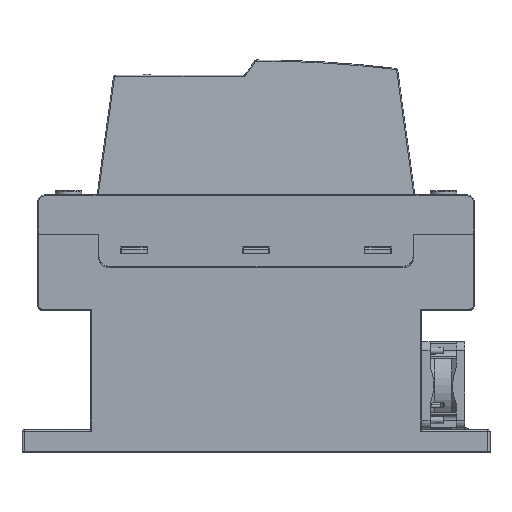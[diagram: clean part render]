
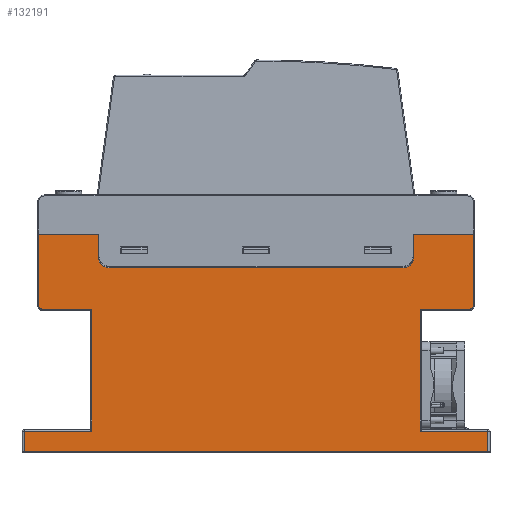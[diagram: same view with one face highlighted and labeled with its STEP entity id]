
A CAD part, top view. The second image highlights one B-rep face of the part: STEP entity #132191.
In plain terms, the highlighted planar face has unit normal (0, 0, 1).
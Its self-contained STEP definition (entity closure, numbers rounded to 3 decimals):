
#5770=PLANE('',#140024);
#9480=ELLIPSE('',#140025,5.154,5.);
#9481=ELLIPSE('',#140026,5.154,5.);
#11938=FACE_OUTER_BOUND('',#18976,.T.);
#18976=EDGE_LOOP('',(#98917,#98918,#98919,#98920,#98921,#98922,#98923,#98924,
#98925,#98926,#98927,#98928,#98929,#98930,#98931,#98932,#98933,#98934,#98935,
#98936));
#26194=CIRCLE('',#140027,1.5);
#26195=CIRCLE('',#140028,1.5);
#33085=LINE('',#185330,#47437);
#33117=LINE('',#185426,#47469);
#33576=LINE('',#186367,#47928);
#33577=LINE('',#186371,#47929);
#33578=LINE('',#186374,#47930);
#33579=LINE('',#186376,#47931);
#33580=LINE('',#186380,#47932);
#33581=LINE('',#186382,#47933);
#33582=LINE('',#186384,#47934);
#33583=LINE('',#186386,#47935);
#33584=LINE('',#186388,#47936);
#33585=LINE('',#186390,#47937);
#33586=LINE('',#186392,#47938);
#33587=LINE('',#186394,#47939);
#33588=LINE('',#186396,#47940);
#33589=LINE('',#186399,#47941);
#47437=VECTOR('',#152930,1000.);
#47469=VECTOR('',#152994,1000.);
#47928=VECTOR('',#153613,1000.);
#47929=VECTOR('',#153616,1000.);
#47930=VECTOR('',#153619,1000.);
#47931=VECTOR('',#153620,1000.);
#47932=VECTOR('',#153623,1000.);
#47933=VECTOR('',#153624,1000.);
#47934=VECTOR('',#153625,1000.);
#47935=VECTOR('',#153626,1000.);
#47936=VECTOR('',#153627,1000.);
#47937=VECTOR('',#153628,1000.);
#47938=VECTOR('',#153629,1000.);
#47939=VECTOR('',#153630,1000.);
#47940=VECTOR('',#153631,1000.);
#47941=VECTOR('',#153634,1000.);
#61491=VERTEX_POINT('',#185327);
#61492=VERTEX_POINT('',#185329);
#61539=VERTEX_POINT('',#185423);
#61540=VERTEX_POINT('',#185425);
#61942=VERTEX_POINT('',#186366);
#61943=VERTEX_POINT('',#186368);
#61944=VERTEX_POINT('',#186370);
#61945=VERTEX_POINT('',#186372);
#61946=VERTEX_POINT('',#186375);
#61947=VERTEX_POINT('',#186377);
#61948=VERTEX_POINT('',#186379);
#61949=VERTEX_POINT('',#186381);
#61950=VERTEX_POINT('',#186383);
#61951=VERTEX_POINT('',#186385);
#61952=VERTEX_POINT('',#186387);
#61953=VERTEX_POINT('',#186389);
#61954=VERTEX_POINT('',#186391);
#61955=VERTEX_POINT('',#186393);
#61956=VERTEX_POINT('',#186395);
#61957=VERTEX_POINT('',#186397);
#75514=EDGE_CURVE('',#61491,#61492,#33085,.T.);
#75562=EDGE_CURVE('',#61539,#61540,#33117,.T.);
#76021=EDGE_CURVE('',#61491,#61942,#33576,.T.);
#76022=EDGE_CURVE('',#61942,#61943,#9480,.T.);
#76023=EDGE_CURVE('',#61943,#61944,#33577,.T.);
#76024=EDGE_CURVE('',#61944,#61945,#9481,.T.);
#76025=EDGE_CURVE('',#61945,#61540,#33578,.T.);
#76026=EDGE_CURVE('',#61539,#61946,#33579,.T.);
#76027=EDGE_CURVE('',#61946,#61947,#26194,.T.);
#76028=EDGE_CURVE('',#61947,#61948,#33580,.T.);
#76029=EDGE_CURVE('',#61948,#61949,#33581,.T.);
#76030=EDGE_CURVE('',#61949,#61950,#33582,.T.);
#76031=EDGE_CURVE('',#61950,#61951,#33583,.T.);
#76032=EDGE_CURVE('',#61952,#61951,#33584,.T.);
#76033=EDGE_CURVE('',#61952,#61953,#33585,.T.);
#76034=EDGE_CURVE('',#61953,#61954,#33586,.T.);
#76035=EDGE_CURVE('',#61954,#61955,#33587,.T.);
#76036=EDGE_CURVE('',#61955,#61956,#33588,.T.);
#76037=EDGE_CURVE('',#61956,#61957,#26195,.T.);
#76038=EDGE_CURVE('',#61957,#61492,#33589,.T.);
#98917=ORIENTED_EDGE('',*,*,#76021,.T.);
#98918=ORIENTED_EDGE('',*,*,#76022,.T.);
#98919=ORIENTED_EDGE('',*,*,#76023,.T.);
#98920=ORIENTED_EDGE('',*,*,#76024,.T.);
#98921=ORIENTED_EDGE('',*,*,#76025,.T.);
#98922=ORIENTED_EDGE('',*,*,#75562,.F.);
#98923=ORIENTED_EDGE('',*,*,#76026,.T.);
#98924=ORIENTED_EDGE('',*,*,#76027,.T.);
#98925=ORIENTED_EDGE('',*,*,#76028,.T.);
#98926=ORIENTED_EDGE('',*,*,#76029,.T.);
#98927=ORIENTED_EDGE('',*,*,#76030,.T.);
#98928=ORIENTED_EDGE('',*,*,#76031,.T.);
#98929=ORIENTED_EDGE('',*,*,#76032,.F.);
#98930=ORIENTED_EDGE('',*,*,#76033,.T.);
#98931=ORIENTED_EDGE('',*,*,#76034,.T.);
#98932=ORIENTED_EDGE('',*,*,#76035,.T.);
#98933=ORIENTED_EDGE('',*,*,#76036,.T.);
#98934=ORIENTED_EDGE('',*,*,#76037,.T.);
#98935=ORIENTED_EDGE('',*,*,#76038,.T.);
#98936=ORIENTED_EDGE('',*,*,#75514,.F.);
#132191=ADVANCED_FACE('',(#11938),#5770,.T.);
#140024=AXIS2_PLACEMENT_3D('',#186365,#153611,#153612);
#140025=AXIS2_PLACEMENT_3D('',#186369,#153614,#153615);
#140026=AXIS2_PLACEMENT_3D('',#186373,#153617,#153618);
#140027=AXIS2_PLACEMENT_3D('',#186378,#153621,#153622);
#140028=AXIS2_PLACEMENT_3D('',#186398,#153632,#153633);
#152930=DIRECTION('',(1.,0.,0.));
#152994=DIRECTION('',(1.,0.,0.));
#153611=DIRECTION('center_axis',(0.,0.,
1.));
#153612=DIRECTION('ref_axis',(1.,0.,0.));
#153613=DIRECTION('',(0.,-1.,0.));
#153614=DIRECTION('center_axis',(0.,0.,
-1.));
#153615=DIRECTION('ref_axis',(0.,1.,0.));
#153616=DIRECTION('',(-1.,0.,0.));
#153617=DIRECTION('center_axis',(0.,0.,
-1.));
#153618=DIRECTION('ref_axis',(0.,1.,0.));
#153619=DIRECTION('',(0.,1.,0.));
#153620=DIRECTION('',(0.,-1.,0.));
#153621=DIRECTION('center_axis',(0.,0.,
1.));
#153622=DIRECTION('ref_axis',(1.,0.,0.));
#153623=DIRECTION('',(1.,0.,0.));
#153624=DIRECTION('',(0.,-1.,0.));
#153625=DIRECTION('',(-1.,0.,0.));
#153626=DIRECTION('',(0.,-1.,0.));
#153627=DIRECTION('',(-1.,0.,0.));
#153628=DIRECTION('',(0.,1.,0.));
#153629=DIRECTION('',(-1.,0.,0.));
#153630=DIRECTION('',(0.,1.,0.));
#153631=DIRECTION('',(1.,0.,0.));
#153632=DIRECTION('center_axis',(0.,0.,
1.));
#153633=DIRECTION('ref_axis',(1.,0.,0.));
#153634=DIRECTION('',(0.,1.,0.));
#185327=CARTESIAN_POINT('',(72.5,43.,37.5));
#185329=CARTESIAN_POINT('',(99.75,43.,37.5));
#185330=CARTESIAN_POINT('',(0.,43.,37.5));
#185423=CARTESIAN_POINT('',(-99.75,43.,37.5));
#185425=CARTESIAN_POINT('',(-72.5,43.,37.5));
#185426=CARTESIAN_POINT('',(0.,43.,37.5));
#186365=CARTESIAN_POINT('Origin',(0.,-407.125,
37.5));
#186366=CARTESIAN_POINT('',(72.5,32.654,37.5));
#186367=CARTESIAN_POINT('',(72.5,43.,37.5));
#186368=CARTESIAN_POINT('',(67.5,27.5,37.5));
#186369=CARTESIAN_POINT('Origin',(67.5,32.654,37.5));
#186370=CARTESIAN_POINT('',(-67.5,27.5,37.5));
#186371=CARTESIAN_POINT('',(0.,27.5,37.5));
#186372=CARTESIAN_POINT('',(-72.5,32.654,37.5));
#186373=CARTESIAN_POINT('Origin',(-67.5,32.654,37.5));
#186374=CARTESIAN_POINT('',(-72.5,43.,37.5));
#186375=CARTESIAN_POINT('',(-99.75,10.,37.5));
#186376=CARTESIAN_POINT('',(-99.75,10.,37.5));
#186377=CARTESIAN_POINT('',(-98.25,8.5,37.5));
#186378=CARTESIAN_POINT('Origin',(-98.25,10.,37.5));
#186379=CARTESIAN_POINT('',(-75.5,8.5,37.5));
#186380=CARTESIAN_POINT('',(-76.,8.5,37.5));
#186381=CARTESIAN_POINT('',(-75.5,-47.5,37.5));
#186382=CARTESIAN_POINT('',(-75.5,-47.,37.5));
#186383=CARTESIAN_POINT('',(-106.5,-47.5,37.5));
#186384=CARTESIAN_POINT('',(-106.5,-47.5,37.5));
#186385=CARTESIAN_POINT('',(-106.5,-57.,37.5));
#186386=CARTESIAN_POINT('',(-106.5,-57.,37.5));
#186387=CARTESIAN_POINT('',(106.5,-57.,37.5));
#186388=CARTESIAN_POINT('',(107.5,-57.,37.5));
#186389=CARTESIAN_POINT('',(106.5,-47.5,37.5));
#186390=CARTESIAN_POINT('',(106.5,-47.,37.5));
#186391=CARTESIAN_POINT('',(75.5,-47.5,37.5));
#186392=CARTESIAN_POINT('',(75.5,-47.5,37.5));
#186393=CARTESIAN_POINT('',(75.5,8.5,37.5));
#186394=CARTESIAN_POINT('',(75.5,8.,37.5));
#186395=CARTESIAN_POINT('',(98.25,8.5,37.5));
#186396=CARTESIAN_POINT('',(98.25,8.5,37.5));
#186397=CARTESIAN_POINT('',(99.75,10.,37.5));
#186398=CARTESIAN_POINT('Origin',(98.25,10.,37.5));
#186399=CARTESIAN_POINT('',(99.75,43.,37.5));
